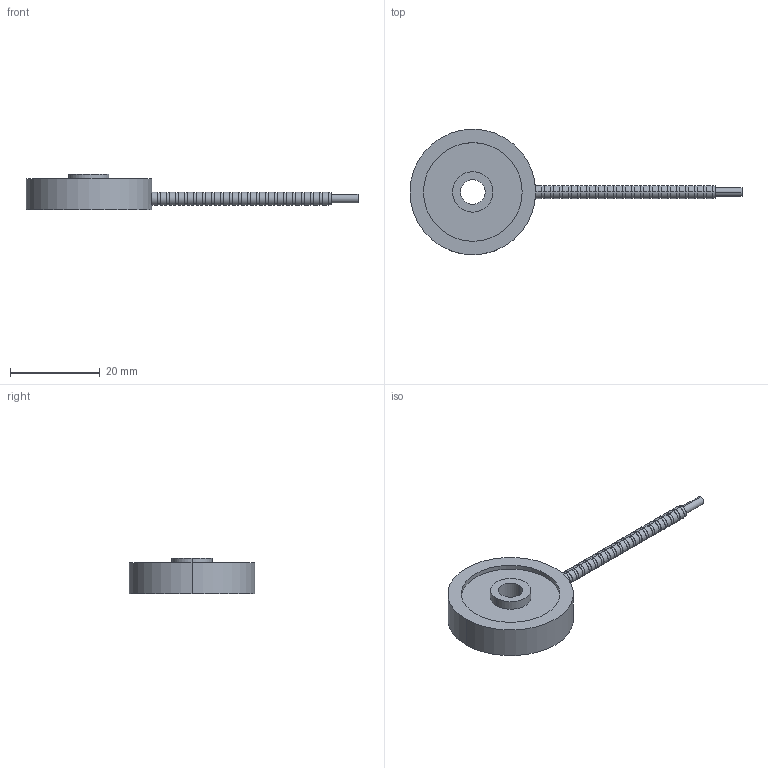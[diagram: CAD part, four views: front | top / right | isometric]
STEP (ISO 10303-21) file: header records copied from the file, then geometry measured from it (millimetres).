
FILE_DESCRIPTION(('STEP AP203'),'1');
FILE_NAME('C:/TPO v2/SharedFS/Outgoing/burster_8438-5200-v010_8fqstm5zwq1mlv4vlsbf60gpo.stp','2013-08-27T15:36:58',('TraceParts'),('TraceParts S.A.'),'XStep 1.0',' ',' ');
FILE_SCHEMA(('CONFIG_CONTROL_DESIGN'));
Length unit declared in the file: millimetre
Products named in the file (1): 1
Bounding box: 74 x 28 x 8 mm (x, y, z)
Volume: 3797.7 mm3; surface area: 2529.5 mm2
Topology: 1 solids, 1 shells, 138 faces, 277 edges, 184 vertices
Faces by surface type: cylinder 92, plane 46
Entity records: 3766 total; most frequent: DIRECTION 735, CARTESIAN_POINT 635, ORIENTED_EDGE 554, AXIS2_PLACEMENT_3D 321, EDGE_CURVE 277, VERTEX_POINT 184, EDGE_LOOP 183, CIRCLE 182
